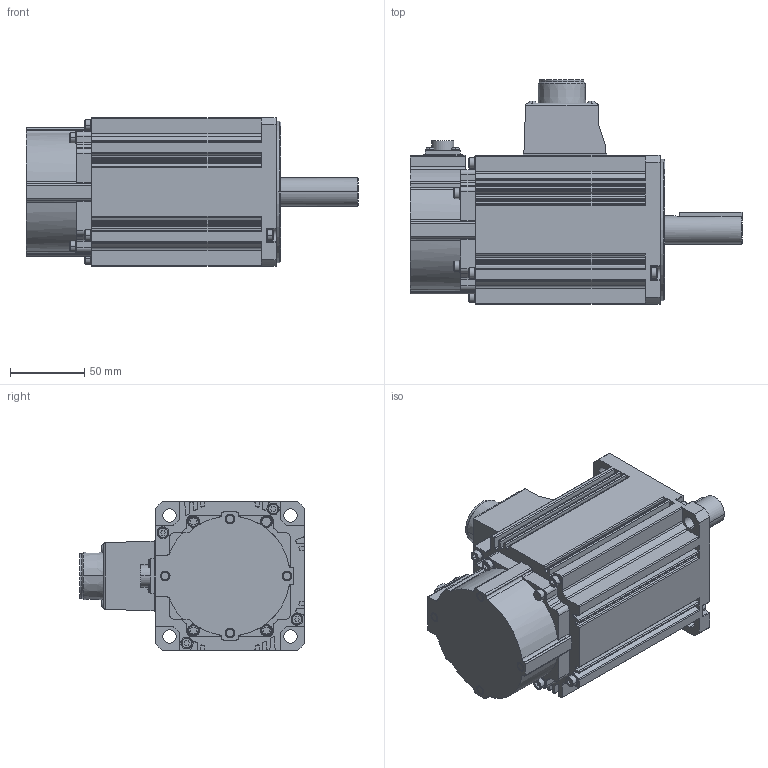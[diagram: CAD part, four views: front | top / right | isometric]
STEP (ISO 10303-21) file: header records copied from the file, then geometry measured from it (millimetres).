
FILE_DESCRIPTION( ( '' ), '1' );
FILE_NAME( '//expscmdclustefs.cadenas.external/client_exchange/iodir/jobs/output/wkb64588915_no0/STEP/MSME102G1G_1__2_03.stp', '2013-10-23T13:54:18', ( '' ), ( '' ), ' ', ' ', ' ' );
FILE_SCHEMA( ( 'CONFIG_CONTROL_DESIGN' ) );
Length unit declared in the file: millimetre
Products named in the file (1): 1
Bounding box: 223 x 151 x 100 mm (x, y, z)
Volume: 1470797.9 mm3; surface area: 112379.5 mm2
Topology: 1 solids, 1 shells, 636 faces, 1690 edges, 1110 vertices
Faces by surface type: plane 285, cylinder 267, cone 44, torus 32, sphere 8
Entity records: 20308 total; most frequent: CARTESIAN_POINT 3803, DIRECTION 3630, ORIENTED_EDGE 3380, EDGE_CURVE 1690, AXIS2_PLACEMENT_3D 1339, VERTEX_POINT 1110, LINE 952, VECTOR 952
